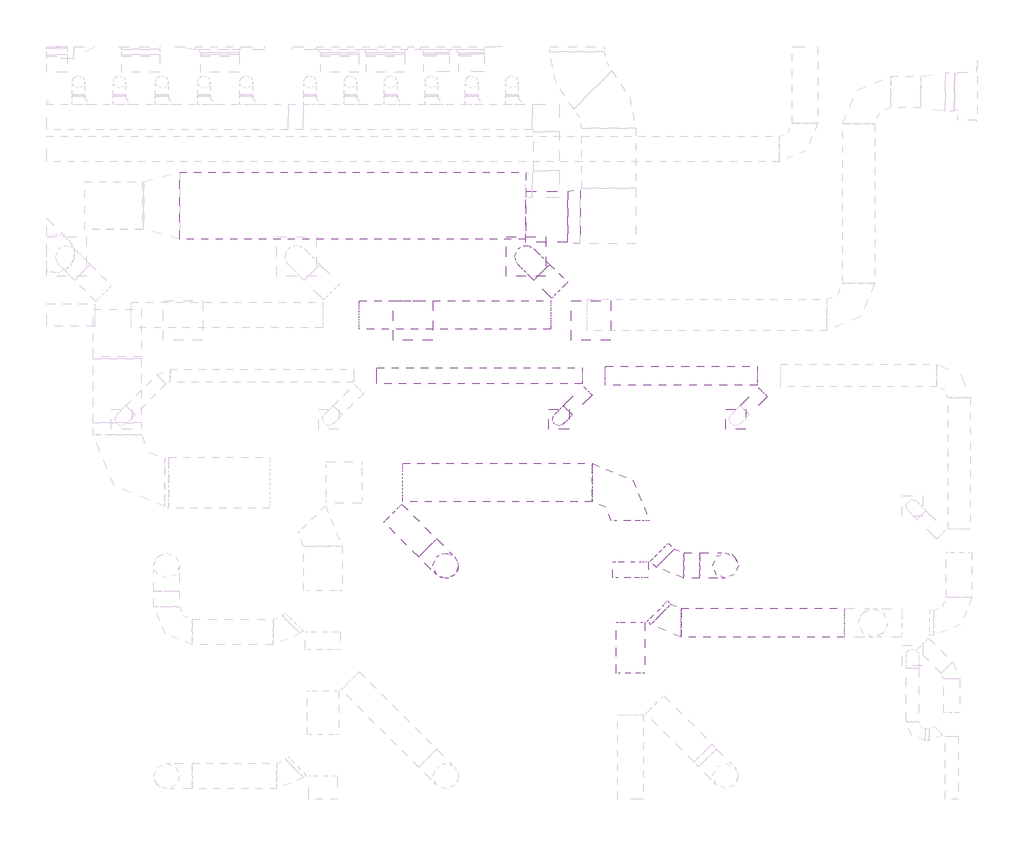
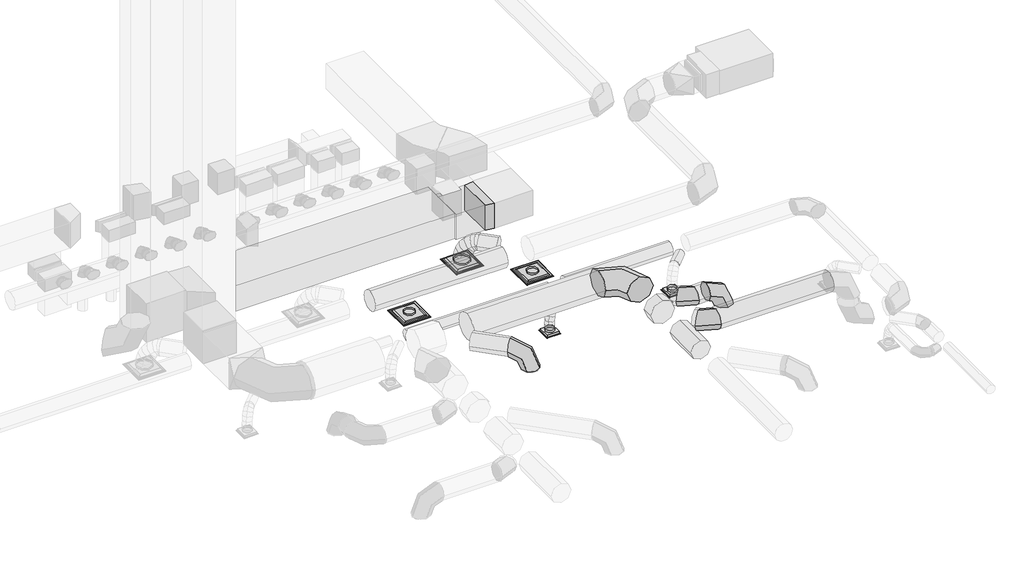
# One storey, part 20 of 33: 20 duct segments, 6 duct fittings, 5 air terminals.
"""IFC4 building model written with IfcOpenShell, lengths in millimetres."""

from ifc_helpers import new_model, si_unit, point, frame, frame_2d, origin, place, context, project, spatial, polyline, circle_curve, ellipse_curve, trimmed, segment, composite_curve, outline, extrude, transform, mapped, element, save
from ifc_brep_helpers import plane_surface, cylinder_surface, advanced_brep
from components import air_terminal_1ddfe03e, air_terminal_0721d01d, par_aa_10_24x24_32668ffe, rectangular_transition_angle_15_degree_857dea24, round_elbow_1_d_30de4f45, round_elbow_1_d_8aca8b6e, round_elbow_1_d_29f30982, round_elbow_1_d_6b09a4cd

model = new_model("IFC4")

# Units and contexts
model_context = context("Model", 3, world=origin())
ifc_project = project(units=[si_unit("LENGTHUNIT", "METRE", prefix="MILLI")], contexts=[model_context])

# Site, building, storey
site = spatial("IfcSite", under=ifc_project)
building = spatial("IfcBuilding", under=site)
storey = spatial("IfcBuildingStorey", under=building, Name="T.O. SLAB - 1ST", Elevation=-25.4)

# Air terminals
placement = place(None, origin())
air_terminal_shape = air_terminal_1ddfe03e(model_context)
element("IfcAirTerminal", 1, ObjectType="Titus-Round_Neck_Supply_Diffuser-PCS_Surface_Mount : PCS AA-14_24x24", at=placement, inside=storey, context=model_context, shape_type="MappedRepresentation", body=[
    mapped(air_terminal_shape, transform((26794.1003593, 22983.6286711, 3327.4), x_axis=(1.0, 0.0, 0.0), y_axis=(0.0, -1.0, 0.0), z_axis=(0.0, 0.0, -1.0))),
])
air_terminal_2_shape = air_terminal_0721d01d(model_context)
element("IfcAirTerminal", 2, ObjectType="Titus-Round_Neck_Supply_Diffuser-PCS_Surface_Mount : PCS AA-08_12x12", at=placement, inside=storey, context=model_context, shape_type="MappedRepresentation", body=[
    mapped(air_terminal_2_shape, transform((27319.5570862, 20392.8311449, 3022.6), x_axis=(1.0, 0.0, 0.0), y_axis=(0.0, -1.0, 0.0), z_axis=(0.0, 0.0, -1.0))),
])
element("IfcAirTerminal", 3, ObjectType="Titus-Round_Neck_Supply_Diffuser-PCS_Surface_Mount : PCS AA-08_12x12", at=placement, inside=storey, context=model_context, shape_type="MappedRepresentation", body=[
    mapped(air_terminal_2_shape, transform((30136.7941605, 20392.8311449, 3022.6), x_axis=(1.0, 0.0, 0.0), y_axis=(0.0, -1.0, 0.0), z_axis=(0.0, 0.0, -1.0))),
])
par_aa_10_24x24_shape = par_aa_10_24x24_32668ffe(model_context)
element("IfcAirTerminal", 4, ObjectType="Titus-Round_Neck_Return_Diffuser-PAR_Surface_Mount : PAR AA-10_24x24", at=placement, inside=storey, context=model_context, shape_type="MappedRepresentation", body=[
    mapped(par_aa_10_24x24_shape, transform((27829.5759689, 21965.7752957, 3327.4), x_axis=(1.0, 0.0, 0.0), y_axis=(0.0, -1.0, 0.0), z_axis=(0.0, 0.0, -1.0))),
])
element("IfcAirTerminal", 5, ObjectType="Titus-Round_Neck_Return_Diffuser-PAR_Surface_Mount : PAR AA-10_24x24", at=placement, inside=storey, context=model_context, shape_type="MappedRepresentation", body=[
    mapped(par_aa_10_24x24_shape, transform((24993.2472379, 21965.7752957, 3327.4), x_axis=(1.0, 0.0, 0.0), y_axis=(0.0, -1.0, 0.0), z_axis=(0.0, 0.0, -1.0))),
])

# Duct fittings
rectangular_transition_angle_15_degree_shape = rectangular_transition_angle_15_degree_857dea24(model_context)
element("IfcDuctFitting", 6, ObjectType="Rectangular Transition - Angle : 15 Degree", at=placement, inside=storey, context=model_context, shape_type="MappedRepresentation", body=[
    mapped(rectangular_transition_angle_15_degree_shape, transform((27655.9876835, 23618.6195003, 4038.6), x_axis=(-1.0, 0.0, 0.0), y_axis=(0.0, -1.0, 0.0), z_axis=(0.0, 0.0, 1.0))),
])
round_elbow_1_d_shape = round_elbow_1_d_30de4f45(model_context)
element("IfcDuctFitting", 7, ObjectType="Round Elbow : 1 D", at=placement, inside=storey, context=model_context, shape_type="MappedRepresentation", body=[
    mapped(round_elbow_1_d_shape, transform((29136.6143445, 18062.7021835, 4635.5), x_axis=(0.7071067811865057, -0.7071067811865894, 0.0), y_axis=(0.7071067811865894, 0.7071067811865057, 0.0), z_axis=(0.0, 0.0, 1.0))),
])
round_elbow_1_d_2_shape = round_elbow_1_d_8aca8b6e(model_context)
element("IfcDuctFitting", 8, ObjectType="Round Elbow : 1 D", at=placement, inside=storey, context=model_context, shape_type="MappedRepresentation", body=[
    mapped(round_elbow_1_d_2_shape, transform((25516.0211962, 18056.8445835, 4635.5), x_axis=(0.0, 0.0, 1.0), y_axis=(-0.7082143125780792, 0.705997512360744, 0.0), z_axis=(-0.705997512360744, -0.7082143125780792, 0.0))),
])
element("IfcDuctFitting", 9, ObjectType="Round Elbow : 1 D", at=placement, inside=storey, context=model_context, shape_type="MappedRepresentation", body=[
    mapped(round_elbow_1_d_2_shape, transform((29971.9404612, 18062.7021835, 4635.5), x_axis=(0.0, 0.0, 1.0), y_axis=(-1.0, 0.0, 0.0), z_axis=(0.0, -1.0, 0.0))),
])
round_elbow_1_d_3_shape = round_elbow_1_d_29f30982(model_context)
element("IfcDuctFitting", 10, ObjectType="Round Elbow : 1 D", at=placement, inside=storey, context=model_context, shape_type="MappedRepresentation", body=[
    mapped(round_elbow_1_d_3_shape, transform((28460.757068, 19383.49798, 4635.5), x_axis=(0.0, 1.0, 0.0), y_axis=(-1.0, 0.0, 0.0), z_axis=(0.0, 0.0, 1.0))),
])
round_elbow_1_d_4_shape = round_elbow_1_d_6b09a4cd(model_context)
element("IfcDuctFitting", 11, ObjectType="Round Elbow : 1 D", at=placement, inside=storey, context=model_context, shape_type="MappedRepresentation", body=[
    mapped(round_elbow_1_d_4_shape, transform((29077.520461, 17149.3079464, 4635.5), x_axis=(0.7071067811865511, -0.707106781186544, 0.0), y_axis=(0.707106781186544, 0.7071067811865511, 0.0), z_axis=(0.0, 0.0, 1.0))),
])

# Duct segments
element("IfcDuctSegment", 12, ObjectType="Flex - Round", at=placement, inside=storey, context=model_context, shape_type="AdvancedBrep", body=[
    advanced_brep(
    [(27535.0830808, 20463.5313832, 3530.6), (27463.2410318, 20535.3734322, 3429.0), (27391.3989828, 20607.2154811, 3530.6), (27463.2410318, 20535.3734322, 3632.2), (27514.8774266, 20443.3257291, 3530.6), (27460.1110625, 20532.2434629, 3429.0), (27371.2954757, 20587.111974, 3530.6), (27426.0618399, 20498.1942402, 3632.2), (27391.2313169, 20320.8216688, 3117.85), (27247.5476101, 20321.1569141, 3117.85), (27247.8828554, 20464.840621, 3117.85), (27391.5665623, 20464.5053756, 3117.85), (27486.6930422, 20415.2261322, 3510.6152663), (27457.8171631, 20529.9564642, 3427.3734621), (27343.2575082, 20559.1583535, 3510.7190863), (27372.1333873, 20444.4280215, 3593.9608904), (27449.5121035, 20378.2568308, 3457.535869), (27437.0341597, 20509.2917596, 3397.7037084), (27306.15357, 20522.2656144, 3457.7496147), (27318.6315138, 20391.2306856, 3517.5817753), (27422.4328543, 20351.452559, 3381.5439205), (27418.1320615, 20490.5816036, 3344.6591332), (27279.1006607, 20495.487415, 3381.8315832), (27283.4014535, 20356.3583704, 3418.7163705), (27404.3969683, 20333.6915046, 3292.8233304), (27403.1999664, 20475.8770443, 3271.2064459), (27261.0631889, 20477.724799, 3293.1031925), (27262.2601909, 20335.5392593, 3314.720077), (27394.3475146, 20323.8533685, 3201.5338504), (27394.3771654, 20467.2397672, 3191.0599091), (27251.0041677, 20467.8772966, 3201.7268012), (27250.9745169, 20324.4908979, 3212.2007425), (27391.2313169, 20320.8216688, 3123.0874764), (27391.5665623, 20464.5053756, 3120.3064953), (27247.8828554, 20464.840621, 3123.1516743), (27247.5476101, 20321.1569141, 3125.9326554)],
    [
        (0, 1, circle_curve(frame((27463.2410318, 20535.3734322, 3530.6), z_axis=(0.7071067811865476, 0.7071067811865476, 0.0), x_axis=(0.7071067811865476, -0.7071067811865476, 0.0)), 101.6)),
        (1, 2, circle_curve(frame((27463.2410318, 20535.3734322, 3530.6), z_axis=(0.7071067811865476, 0.7071067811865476, 0.0), x_axis=(0.7071067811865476, -0.7071067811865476, 0.0)), 101.6)),
        (2, 3, circle_curve(frame((27463.2410318, 20535.3734322, 3530.6), z_axis=(0.7071067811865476, 0.7071067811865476, 0.0), x_axis=(0.7071067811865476, -0.7071067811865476, 0.0)), 101.6)),
        (3, 0, circle_curve(frame((27463.2410318, 20535.3734322, 3530.6), z_axis=(0.7071067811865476, 0.7071067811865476, 0.0), x_axis=(0.7071067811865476, -0.7071067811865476, 0.0)), 101.6)),
        (0, 4),
        (4, 5, ellipse_curve(frame((27443.0864512, 20515.2188515, 3530.6), z_axis=(0.688540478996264, 0.6875621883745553, 0.23058674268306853), x_axis=(0.16098605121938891, 0.16511431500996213, -0.9730471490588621)), 104.4137922, 101.6)),
        (5, 1),
        (5, 6, ellipse_curve(frame((27443.0864512, 20515.2188515, 3530.6), z_axis=(0.688540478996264, 0.6875621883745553, 0.23058674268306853), x_axis=(0.16098605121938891, 0.16511431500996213, -0.9730471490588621)), 104.4137922, 101.6)),
        (6, 2),
        (6, 7, ellipse_curve(frame((27443.0864512, 20515.2188515, 3530.6), z_axis=(0.688540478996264, 0.6875621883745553, 0.23058674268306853), x_axis=(0.16098605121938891, 0.16511431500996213, -0.9730471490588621)), 104.4137922, 101.6)),
        (7, 3),
        (7, 4, ellipse_curve(frame((27443.0864512, 20515.2188515, 3530.6), z_axis=(0.688540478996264, 0.6875621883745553, 0.23058674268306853), x_axis=(0.16098605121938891, 0.16511431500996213, -0.9730471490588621)), 104.4137922, 101.6)),
        (8, 9, circle_curve(frame((27319.5570862, 20392.8311449, 3117.85), z_axis=(0.0, 0.0, -1.0), x_axis=(0.7054550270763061, -0.7087546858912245, 0.0)), 101.6)),
        (9, 10, circle_curve(frame((27319.5570862, 20392.8311449, 3117.85), z_axis=(0.0, 0.0, -1.0), x_axis=(0.7054550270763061, -0.7087546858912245, 0.0)), 101.6)),
        (10, 11, circle_curve(frame((27319.5570862, 20392.8311449, 3117.85), z_axis=(0.0, 0.0, -1.0), x_axis=(0.7054550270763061, -0.7087546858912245, 0.0)), 101.6)),
        (11, 8, circle_curve(frame((27319.5570862, 20392.8311449, 3117.85), z_axis=(0.0, 0.0, -1.0), x_axis=(0.7054550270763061, -0.7087546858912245, 0.0)), 101.6)),
        (4, 12),
        (12, 13, ellipse_curve(frame((27414.9752752, 20487.1922428, 3510.6671763), z_axis=(0.5732082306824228, 0.5708061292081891, 0.5878883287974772), x_axis=(0.414265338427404, 0.41713774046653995, -0.808937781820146)), 102.96626, 101.6)),
        (13, 5),
        (13, 14, ellipse_curve(frame((27414.9752752, 20487.1922428, 3510.6671763), z_axis=(0.5732082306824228, 0.5708061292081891, 0.5878883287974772), x_axis=(0.414265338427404, 0.41713774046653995, -0.808937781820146)), 102.96626, 101.6)),
        (14, 6),
        (14, 15, ellipse_curve(frame((27414.9752752, 20487.1922428, 3510.6671763), z_axis=(0.5732082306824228, 0.5708061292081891, 0.5878883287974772), x_axis=(0.414265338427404, 0.41713774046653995, -0.808937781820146)), 102.96626, 101.6)),
        (15, 7),
        (15, 12, ellipse_curve(frame((27414.9752752, 20487.1922428, 3510.6671763), z_axis=(0.5732082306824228, 0.5708061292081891, 0.5878883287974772), x_axis=(0.414265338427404, 0.41713774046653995, -0.808937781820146)), 102.96626, 101.6)),
        (12, 16),
        (16, 17, ellipse_curve(frame((27377.8328367, 20450.2612226, 3457.6427418), z_axis=(0.4135458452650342, 0.4104722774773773, 0.8127068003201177), x_axis=(0.5740369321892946, 0.5753079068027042, -0.5826683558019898)), 102.8692851, 101.6)),
        (17, 13),
        (17, 18, ellipse_curve(frame((27377.8328367, 20450.2612226, 3457.6427418), z_axis=(0.4135458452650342, 0.4104722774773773, 0.8127068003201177), x_axis=(0.5740369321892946, 0.5753079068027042, -0.5826683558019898)), 102.8692851, 101.6)),
        (18, 14),
        (18, 19, ellipse_curve(frame((27377.8328367, 20450.2612226, 3457.6427418), z_axis=(0.4135458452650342, 0.4104722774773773, 0.8127068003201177), x_axis=(0.5740369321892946, 0.5753079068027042, -0.5826683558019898)), 102.8692851, 101.6)),
        (19, 15),
        (19, 16, ellipse_curve(frame((27377.8328367, 20450.2612226, 3457.6427418), z_axis=(0.4135458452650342, 0.4104722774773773, 0.8127068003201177), x_axis=(0.5740369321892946, 0.5753079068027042, -0.5826683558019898)), 102.8692851, 101.6)),
        (16, 20),
        (20, 21, ellipse_curve(frame((27350.7667575, 20423.469987, 3381.6877518), z_axis=(0.25814224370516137, 0.25502187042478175, 0.931840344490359), x_axis=(0.6595970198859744, 0.6582257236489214, -0.3628645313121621)), 102.0449505, 101.6)),
        (21, 17),
        (21, 22, ellipse_curve(frame((27350.7667575, 20423.469987, 3381.6877518), z_axis=(0.25814224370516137, 0.25502187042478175, 0.931840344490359), x_axis=(0.6595970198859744, 0.6582257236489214, -0.3628645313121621)), 102.0449505, 101.6)),
        (22, 18),
        (22, 23, ellipse_curve(frame((27350.7667575, 20423.469987, 3381.6877518), z_axis=(0.25814224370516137, 0.25502187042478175, 0.931840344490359), x_axis=(0.6595970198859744, 0.6582257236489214, -0.3628645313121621)), 102.0449505, 101.6)),
        (23, 19),
        (23, 20, ellipse_curve(frame((27350.7667575, 20423.469987, 3381.6877518), z_axis=(0.25814224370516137, 0.25502187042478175, 0.931840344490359), x_axis=(0.6595970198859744, 0.6582257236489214, -0.3628645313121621)), 102.0449505, 101.6)),
        (20, 24),
        (24, 25, ellipse_curve(frame((27332.7300786, 20405.7081518, 3292.9632615), z_axis=(0.1524417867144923, 0.14980329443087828, 0.9768932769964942), x_axis=(0.6935269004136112, 0.687998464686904, -0.21372541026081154)), 101.7990065, 101.6)),
        (25, 21),
        (25, 26, ellipse_curve(frame((27332.7300786, 20405.7081518, 3292.9632615), z_axis=(0.1524417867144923, 0.14980329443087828, 0.9768932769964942), x_axis=(0.6935269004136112, 0.687998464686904, -0.21372541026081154)), 101.7990065, 101.6)),
        (26, 22),
        (26, 27, ellipse_curve(frame((27332.7300786, 20405.7081518, 3292.9632615), z_axis=(0.1524417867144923, 0.14980329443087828, 0.9768932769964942), x_axis=(0.6935269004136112, 0.687998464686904, -0.21372541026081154)), 101.7990065, 101.6)),
        (27, 23),
        (27, 24, ellipse_curve(frame((27332.7300786, 20405.7081518, 3292.9632615), z_axis=(0.1524417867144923, 0.14980329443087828, 0.9768932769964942), x_axis=(0.6935269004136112, 0.687998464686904, -0.21372541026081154)), 101.7990065, 101.6)),
        (24, 28),
        (28, 29, ellipse_curve(frame((27322.6758411, 20395.8653325, 3201.6303258), z_axis=(0.07431974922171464, 0.07263609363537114, 0.9945856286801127), x_axis=(0.7094711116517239, 0.6970304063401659, -0.10391994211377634)), 101.7208169, 101.6)),
        (29, 25),
        (29, 30, ellipse_curve(frame((27322.6758411, 20395.8653325, 3201.6303258), z_axis=(0.07431974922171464, 0.07263609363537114, 0.9945856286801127), x_axis=(0.7094711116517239, 0.6970304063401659, -0.10391994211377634)), 101.7208169, 101.6)),
        (30, 26),
        (30, 31, ellipse_curve(frame((27322.6758411, 20395.8653325, 3201.6303258), z_axis=(0.07431974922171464, 0.07263609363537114, 0.9945856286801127), x_axis=(0.7094711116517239, 0.6970304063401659, -0.10391994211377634)), 101.7208169, 101.6)),
        (31, 27),
        (31, 28, ellipse_curve(frame((27322.6758411, 20395.8653325, 3201.6303258), z_axis=(0.07431974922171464, 0.07263609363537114, 0.9945856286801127), x_axis=(0.7094711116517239, 0.6970304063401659, -0.10391994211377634)), 101.7208169, 101.6)),
        (28, 32),
        (32, 33, ellipse_curve(frame((27319.5570862, 20392.8311449, 3123.1195753), z_axis=(0.01983912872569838, 0.019301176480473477, 0.9996168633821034), x_axis=(0.7164830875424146, 0.6970551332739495, -0.027678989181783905)), 101.6389416, 101.6)),
        (33, 29),
        (33, 34, ellipse_curve(frame((27319.5570862, 20392.8311449, 3123.1195753), z_axis=(0.01983912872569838, 0.019301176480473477, 0.9996168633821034), x_axis=(0.7164830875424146, 0.6970551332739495, -0.027678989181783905)), 101.6389416, 101.6)),
        (34, 30),
        (34, 35, ellipse_curve(frame((27319.5570862, 20392.8311449, 3123.1195753), z_axis=(0.01983912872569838, 0.019301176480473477, 0.9996168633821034), x_axis=(0.7164830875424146, 0.6970551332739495, -0.027678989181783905)), 101.6389416, 101.6)),
        (35, 31),
        (35, 32, ellipse_curve(frame((27319.5570862, 20392.8311449, 3123.1195753), z_axis=(0.01983912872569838, 0.019301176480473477, 0.9996168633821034), x_axis=(0.7164830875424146, 0.6970551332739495, -0.027678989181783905)), 101.6389416, 101.6)),
        (32, 8),
        (11, 33),
        (10, 34),
        (9, 35),
    ],
    [
        plane_surface(frame((27463.2410318, 20535.3734322, 3429.0), z_axis=(0.7071067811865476, 0.7071067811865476, 0.0), x_axis=(0.7071067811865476, -0.7071067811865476, 0.0))),
        cylinder_surface(frame((27463.2410318, 20535.3734322, 3530.6), z_axis=(0.7071067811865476, 0.7071067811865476, 0.0), x_axis=(0.7071067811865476, -0.7071067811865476, 0.0)), 101.6),
        plane_surface(frame((27319.5570862, 20291.2311449, 3117.85), z_axis=(0.0, 0.0, -1.0), x_axis=(-1.0, 0.0, 0.0))),
        cylinder_surface(frame((27443.0864512, 20515.2188515, 3530.6), z_axis=(0.632863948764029, 0.6309600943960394, 0.4487455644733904), x_axis=(0.7061541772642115, -0.708058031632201, -0.0003190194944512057)), 101.6),
        cylinder_surface(frame((27414.9752752, 20487.1922428, 3510.6671763), z_axis=(0.4983407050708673, 0.49550410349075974, 0.7114297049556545), x_axis=(0.7056704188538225, -0.7085397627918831, -0.0008151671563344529)), 101.6),
        cylinder_surface(frame((27377.8328367, 20450.2612226, 3457.6427418), z_axis=(0.31854565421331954, 0.31531096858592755, 0.8939282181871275), x_axis=(0.7053985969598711, -0.7088095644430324, -0.0013493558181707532)), 101.6),
        cylinder_surface(frame((27350.7667575, 20423.469987, 3381.6877518), z_axis=(0.19548765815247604, 0.19250880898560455, 0.9616261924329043), x_axis=(0.705360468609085, -0.7088472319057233, -0.0014869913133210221)), 101.6),
        cylinder_surface(frame((27332.7300786, 20405.7081518, 3292.9632615), z_axis=(0.10879989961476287, 0.10651208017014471, 0.98834091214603), x_axis=(0.7053951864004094, -0.7088131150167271, -0.0012645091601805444)), 101.6),
        cylinder_surface(frame((27322.6758411, 20395.8653325, 3201.6303258), z_axis=(0.0396630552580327, 0.03858756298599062, 0.9984677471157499), x_axis=(0.7054424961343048, -0.7087668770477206, -0.0006313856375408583)), 101.6),
        cylinder_surface(frame((27319.5570862, 20392.8311449, 3123.1195753), z_axis=(0.0, 0.0, 1.0), x_axis=(0.7054550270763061, -0.7087546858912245, 0.0)), 101.6),
    ],
    [
        (0, [[1, 2, 3, 4]]),
        (1, [[-1, 5, 6, 7]]),
        (1, [[-2, -7, 8, 9]]),
        (1, [[-3, -9, 10, 11]]),
        (1, [[-4, -11, 12, -5]]),
        (2, [[13, 14, 15, 16]]),
        (3, [[-6, 17, 18, 19]]),
        (3, [[-8, -19, 20, 21]]),
        (3, [[-10, -21, 22, 23]]),
        (3, [[-12, -23, 24, -17]]),
        (4, [[-18, 25, 26, 27]]),
        (4, [[-20, -27, 28, 29]]),
        (4, [[-22, -29, 30, 31]]),
        (4, [[-24, -31, 32, -25]]),
        (5, [[-26, 33, 34, 35]]),
        (5, [[-28, -35, 36, 37]]),
        (5, [[-30, -37, 38, 39]]),
        (5, [[-32, -39, 40, -33]]),
        (6, [[-34, 41, 42, 43]]),
        (6, [[-36, -43, 44, 45]]),
        (6, [[-38, -45, 46, 47]]),
        (6, [[-40, -47, 48, -41]]),
        (7, [[-42, 49, 50, 51]]),
        (7, [[-44, -51, 52, 53]]),
        (7, [[-46, -53, 54, 55]]),
        (7, [[-48, -55, 56, -49]]),
        (8, [[-50, 57, 58, 59]]),
        (8, [[-52, -59, 60, 61]]),
        (8, [[-54, -61, 62, 63]]),
        (8, [[-56, -63, 64, -57]]),
        (9, [[-58, 65, -16, 66]]),
        (9, [[-60, -66, -15, 67]]),
        (9, [[-62, -67, -14, 68]]),
        (9, [[-64, -68, -13, -65]]),
    ],
),
])
element("IfcDuctSegment", 13, ObjectType="Flex - Round", at=placement, inside=storey, context=model_context, shape_type="AdvancedBrep", body=[
    advanced_brep(
    [(26919.8239424, 22606.4579215, 3886.2), (27045.5520106, 22732.1770245, 3708.4), (27171.2800788, 22857.8961276, 3886.2), (27045.5520106, 22732.1770245, 4064.0), (26892.3595128, 22633.9243096, 3886.2), (27041.1674895, 22736.5618583, 3708.4), (27143.8136004, 22885.3645646, 3886.2), (26995.0056237, 22782.7270159, 4064.0), (26668.3757814, 22857.9060777, 3416.3), (26668.3777658, 23109.353249, 3416.3), (26919.8249372, 23109.3512646, 3416.3), (26919.8229528, 22857.9040932, 3416.3), (26852.9740249, 22673.3112776, 3865.0343271), (27036.8073603, 22740.9221514, 3706.0568763), (27104.4252147, 22924.7544305, 3865.0327699), (26920.5918793, 22857.1435568, 4024.0102207), (26792.9063658, 22733.3798987, 3808.0267064), (27002.6589958, 22775.0710628, 3673.6481385), (27044.3558807, 22984.8247266, 3808.0235595), (26834.6032507, 22943.1335625, 3942.4021274), (26742.0173958, 22784.2681798, 3724.9134185), (26971.2087703, 22806.5208625, 3622.2827515), (26993.4660741, 23035.7138442, 3724.9089053), (26764.2746996, 23013.4611616, 3827.5395723), (26702.7023512, 22823.5817101, 3625.4303545), (26943.8279343, 22833.9006438, 3552.9980925), (26954.1509866, 23075.0274174, 3625.4257329), (26713.0254035, 23064.7084837, 3697.857995), (26677.3566811, 22848.9258661, 3519.313911), (26925.6344761, 22852.0930152, 3476.8263015), (26928.8055969, 23100.3712931, 3519.3104629), (26680.5278019, 23097.2041439, 3561.7980724), (26668.3757814, 22857.9060777, 3438.0566716), (26919.8229528, 22857.9040932, 3424.2448946), (26919.8249372, 23109.3512646, 3438.0553953), (26668.3777658, 23109.353249, 3451.8671724)],
    [
        (0, 1, circle_curve(frame((27045.5520106, 22732.1770245, 3886.2), z_axis=(0.7070815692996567, -0.7071319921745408, 0.0), x_axis=(-0.7071319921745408, -0.7070815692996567, 0.0)), 177.8)),
        (1, 2, circle_curve(frame((27045.5520106, 22732.1770245, 3886.2), z_axis=(0.7070815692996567, -0.7071319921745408, 0.0), x_axis=(-0.7071319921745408, -0.7070815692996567, 0.0)), 177.8)),
        (2, 3, circle_curve(frame((27045.5520106, 22732.1770245, 3886.2), z_axis=(0.7070815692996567, -0.7071319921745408, 0.0), x_axis=(-0.7071319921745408, -0.7070815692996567, 0.0)), 177.8)),
        (3, 0, circle_curve(frame((27045.5520106, 22732.1770245, 3886.2), z_axis=(0.7070815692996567, -0.7071319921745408, 0.0), x_axis=(-0.7071319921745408, -0.7070815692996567, 0.0)), 177.8)),
        (0, 4),
        (4, 5, ellipse_curve(frame((27018.0865566, 22759.6444371, 3886.2), z_axis=(0.6954638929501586, -0.6955021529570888, 0.1805733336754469), x_axis=(0.12764920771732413, -0.12772004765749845, -0.9835615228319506)), 180.7716098, 177.8)),
        (5, 1),
        (5, 6, ellipse_curve(frame((27018.0865566, 22759.6444371, 3886.2), z_axis=(0.6954638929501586, -0.6955021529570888, 0.1805733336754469), x_axis=(0.12764920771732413, -0.12772004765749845, -0.9835615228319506)), 180.7716098, 177.8)),
        (6, 2),
        (6, 7, ellipse_curve(frame((27018.0865566, 22759.6444371, 3886.2), z_axis=(0.6954638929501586, -0.6955021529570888, 0.1805733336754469), x_axis=(0.12764920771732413, -0.12772004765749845, -0.9835615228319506)), 180.7716098, 177.8)),
        (7, 3),
        (7, 4, ellipse_curve(frame((27018.0865566, 22759.6444371, 3886.2), z_axis=(0.6954638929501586, -0.6955021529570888, 0.1805733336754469), x_axis=(0.12764920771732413, -0.12772004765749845, -0.9835615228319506)), 180.7716098, 177.8)),
        (8, 9, circle_curve(frame((26794.1003593, 22983.6286711, 3416.3), z_axis=(0.0, 0.0, -1.0), x_axis=(-0.7071123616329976, -0.7071012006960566, 0.0)), 177.8)),
        (9, 10, circle_curve(frame((26794.1003593, 22983.6286711, 3416.3), z_axis=(0.0, 0.0, -1.0), x_axis=(-0.7071123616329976, -0.7071012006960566, 0.0)), 177.8)),
        (10, 11, circle_curve(frame((26794.1003593, 22983.6286711, 3416.3), z_axis=(0.0, 0.0, -1.0), x_axis=(-0.7071123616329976, -0.7071012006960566, 0.0)), 177.8)),
        (11, 8, circle_curve(frame((26794.1003593, 22983.6286711, 3416.3), z_axis=(0.0, 0.0, -1.0), x_axis=(-0.7071123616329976, -0.7071012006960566, 0.0)), 177.8)),
        (4, 12),
        (12, 13, ellipse_curve(frame((26978.6996198, 22799.0328541, 3865.0335485), z_axis=(0.6281374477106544, -0.6281546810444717, 0.4592004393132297), x_axis=(0.3246698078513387, -0.3247376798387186, -0.8883326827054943)), 178.9607375, 177.8)),
        (13, 5),
        (13, 14, ellipse_curve(frame((26978.6996198, 22799.0328541, 3865.0335485), z_axis=(0.6281374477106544, -0.6281546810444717, 0.4592004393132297), x_axis=(0.3246698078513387, -0.3247376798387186, -0.8883326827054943)), 178.9607375, 177.8)),
        (14, 6),
        (14, 15, ellipse_curve(frame((26978.6996198, 22799.0328541, 3865.0335485), z_axis=(0.6281374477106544, -0.6281546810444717, 0.4592004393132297), x_axis=(0.3246698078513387, -0.3247376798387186, -0.8883326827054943)), 178.9607375, 177.8)),
        (15, 7),
        (15, 12, ellipse_curve(frame((26978.6996198, 22799.0328541, 3865.0335485), z_axis=(0.6281374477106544, -0.6281546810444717, 0.4592004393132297), x_axis=(0.3246698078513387, -0.3247376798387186, -0.8883326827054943)), 178.9607375, 177.8)),
        (12, 16),
        (16, 17, ellipse_curve(frame((26918.6311232, 22859.1023127, 3808.025133), z_axis=(0.5296905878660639, -0.5296921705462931, 0.6624606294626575), x_axis=(0.4684008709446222, -0.46845993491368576, -0.7490967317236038)), 179.3853699, 177.8)),
        (17, 13),
        (17, 18, ellipse_curve(frame((26918.6311232, 22859.1023127, 3808.025133), z_axis=(0.5296905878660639, -0.5296921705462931, 0.6624606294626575), x_axis=(0.4684008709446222, -0.46845993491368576, -0.7490967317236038)), 179.3853699, 177.8)),
        (18, 14),
        (18, 19, ellipse_curve(frame((26918.6311232, 22859.1023127, 3808.025133), z_axis=(0.5296905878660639, -0.5296921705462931, 0.6624606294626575), x_axis=(0.4684008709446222, -0.46845993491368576, -0.7490967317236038)), 179.3853699, 177.8)),
        (19, 15),
        (19, 16, ellipse_curve(frame((26918.6311232, 22859.1023127, 3808.025133), z_axis=(0.5296905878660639, -0.5296921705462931, 0.6624606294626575), x_axis=(0.4684008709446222, -0.46845993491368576, -0.7490967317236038)), 179.3853699, 177.8)),
        (16, 20),
        (20, 21, ellipse_curve(frame((26867.741735, 22909.991012, 3724.9111619), z_axis=(0.4060341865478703, -0.40602435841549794, 0.8187065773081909), x_axis=(0.5788957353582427, -0.5789302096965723, -0.5742121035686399)), 178.7290963, 177.8)),
        (21, 17),
        (21, 22, ellipse_curve(frame((26867.741735, 22909.991012, 3724.9111619), z_axis=(0.4060341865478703, -0.40602435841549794, 0.8187065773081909), x_axis=(0.5788957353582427, -0.5789302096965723, -0.5742121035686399)), 178.7290963, 177.8)),
        (22, 18),
        (22, 23, ellipse_curve(frame((26867.741735, 22909.991012, 3724.9111619), z_axis=(0.4060341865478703, -0.40602435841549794, 0.8187065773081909), x_axis=(0.5788957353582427, -0.5789302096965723, -0.5742121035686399)), 178.7290963, 177.8)),
        (23, 19),
        (23, 20, ellipse_curve(frame((26867.741735, 22909.991012, 3724.9111619), z_axis=(0.4060341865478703, -0.40602435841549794, 0.8187065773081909), x_axis=(0.5788957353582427, -0.5789302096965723, -0.5742121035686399)), 178.7290963, 177.8)),
        (20, 24),
        (24, 25, ellipse_curve(frame((26828.4266689, 22949.3045637, 3625.4280437), z_axis=(0.2868423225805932, -0.2868288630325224, 0.9140299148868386), x_axis=(0.6463161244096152, -0.6463173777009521, -0.40564678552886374)), 178.5542344, 177.8)),
        (25, 21),
        (25, 26, ellipse_curve(frame((26828.4266689, 22949.3045637, 3625.4280437), z_axis=(0.2868423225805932, -0.2868288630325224, 0.9140299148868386), x_axis=(0.6463161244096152, -0.6463173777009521, -0.40564678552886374)), 178.5542344, 177.8)),
        (26, 22),
        (26, 27, ellipse_curve(frame((26828.4266689, 22949.3045637, 3625.4280437), z_axis=(0.2868423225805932, -0.2868288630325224, 0.9140299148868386), x_axis=(0.6463161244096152, -0.6463173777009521, -0.40564678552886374)), 178.5542344, 177.8)),
        (27, 23),
        (27, 24, ellipse_curve(frame((26828.4266689, 22949.3045637, 3625.4280437), z_axis=(0.2868423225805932, -0.2868288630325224, 0.9140299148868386), x_axis=(0.6463161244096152, -0.6463173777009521, -0.40564678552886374)), 178.5542344, 177.8)),
        (24, 28),
        (28, 29, ellipse_curve(frame((26803.081139, 22974.6485796, 3519.312187), z_axis=(0.16835592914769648, -0.16834494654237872, 0.9712446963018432), x_axis=(0.6867888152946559, -0.6867586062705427, -0.23808347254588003)), 178.449537, 177.8)),
        (29, 25),
        (29, 30, ellipse_curve(frame((26803.081139, 22974.6485796, 3519.312187), z_axis=(0.16835592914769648, -0.16834494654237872, 0.9712446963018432), x_axis=(0.6867888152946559, -0.6867586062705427, -0.23808347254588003)), 178.449537, 177.8)),
        (30, 26),
        (30, 31, ellipse_curve(frame((26803.081139, 22974.6485796, 3519.312187), z_axis=(0.16835592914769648, -0.16834494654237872, 0.9712446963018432), x_axis=(0.6867888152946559, -0.6867586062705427, -0.23808347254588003)), 178.449537, 177.8)),
        (31, 27),
        (31, 28, ellipse_curve(frame((26803.081139, 22974.6485796, 3519.312187), z_axis=(0.16835592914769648, -0.16834494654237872, 0.9712446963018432), x_axis=(0.6867888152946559, -0.6867586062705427, -0.23808347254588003)), 178.449537, 177.8)),
        (28, 32),
        (32, 33, ellipse_curve(frame((26794.1003593, 22983.6286711, 3438.0560335), z_axis=(0.054763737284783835, -0.0547595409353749, 0.9969966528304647), x_axis=(0.7050101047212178, -0.7049560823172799, -0.07744465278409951)), 178.3356037, 177.8)),
        (33, 29),
        (33, 34, ellipse_curve(frame((26794.1003593, 22983.6286711, 3438.0560335), z_axis=(0.054763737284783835, -0.0547595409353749, 0.9969966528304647), x_axis=(0.7050101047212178, -0.7049560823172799, -0.07744465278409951)), 178.3356037, 177.8)),
        (34, 30),
        (34, 35, ellipse_curve(frame((26794.1003593, 22983.6286711, 3438.0560335), z_axis=(0.054763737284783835, -0.0547595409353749, 0.9969966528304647), x_axis=(0.7050101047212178, -0.7049560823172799, -0.07744465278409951)), 178.3356037, 177.8)),
        (35, 31),
        (35, 32, ellipse_curve(frame((26794.1003593, 22983.6286711, 3438.0560335), z_axis=(0.054763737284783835, -0.0547595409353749, 0.9969966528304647), x_axis=(0.7050101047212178, -0.7049560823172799, -0.07744465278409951)), 178.3356037, 177.8)),
        (32, 8),
        (11, 33),
        (10, 34),
        (9, 35),
    ],
    [
        plane_surface(frame((27045.5520106, 22732.1770245, 4064.0), z_axis=(0.7070815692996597, -0.7071319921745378, 0.0), x_axis=(0.7071319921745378, 0.7070815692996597, 0.0))),
        cylinder_surface(frame((27045.5520106, 22732.1770245, 3886.2), z_axis=(0.7070815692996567, -0.7071319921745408, 0.0), x_axis=(-0.7071319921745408, -0.7070815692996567, 0.0)), 177.8),
        plane_surface(frame((26794.1003593, 22805.8286711, 3416.3), z_axis=(0.0, 0.0, -1.0), x_axis=(-1.0, 0.0, 0.0))),
        cylinder_surface(frame((27018.0865566, 22759.6444371, 3886.2), z_axis=(0.6609814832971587, -0.6610063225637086, 0.35520996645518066), x_axis=(-0.707120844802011, -0.7070927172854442, 2.894353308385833e-06)), 177.8),
        cylinder_surface(frame((26978.6996198, 22799.0328541, 3865.0335485), z_axis=(0.5871452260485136, -0.5871546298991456, 0.557234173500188), x_axis=(-0.7071156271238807, -0.7070979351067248, 6.708741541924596e-06)), 177.8),
        cylinder_surface(frame((26918.6311232, 22859.1023127, 3808.025133), z_axis=(0.46287336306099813, -0.4628670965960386, 0.7559777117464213), x_axis=(-0.7071115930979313, -0.7071019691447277, 1.1753919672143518e-05)), 177.8),
        cylinder_surface(frame((26867.741735, 22909.991012, 3724.9111619), z_axis=(0.3449735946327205, -0.3449603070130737, 0.8729235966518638), x_axis=(-0.7071105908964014, -0.7071029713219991, 1.3774707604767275e-05)), 177.8),
        cylinder_surface(frame((26828.4266689, 22949.3045637, 3625.4280437), z_axis=(0.22628773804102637, -0.2262742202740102, 0.9474142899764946), x_axis=(-0.7071111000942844, -0.7071024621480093, 1.215213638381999e-05)), 177.8),
        cylinder_surface(frame((26803.081139, 22974.6485796, 3519.312187), z_axis=(0.10919852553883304, -0.10919015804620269, 0.9880046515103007), x_axis=(-0.7071119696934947, -0.7071015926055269, 7.135421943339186e-06)), 177.8),
        cylinder_surface(frame((26794.1003593, 22983.6286711, 3438.0560335), z_axis=(0.0, 0.0, 1.0), x_axis=(-0.7071123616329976, -0.7071012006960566, 0.0)), 177.8),
    ],
    [
        (0, [[1, 2, 3, 4]]),
        (1, [[-1, 5, 6, 7]]),
        (1, [[-2, -7, 8, 9]]),
        (1, [[-3, -9, 10, 11]]),
        (1, [[-4, -11, 12, -5]]),
        (2, [[13, 14, 15, 16]]),
        (3, [[-6, 17, 18, 19]]),
        (3, [[-8, -19, 20, 21]]),
        (3, [[-10, -21, 22, 23]]),
        (3, [[-12, -23, 24, -17]]),
        (4, [[-18, 25, 26, 27]]),
        (4, [[-20, -27, 28, 29]]),
        (4, [[-22, -29, 30, 31]]),
        (4, [[-24, -31, 32, -25]]),
        (5, [[-26, 33, 34, 35]]),
        (5, [[-28, -35, 36, 37]]),
        (5, [[-30, -37, 38, 39]]),
        (5, [[-32, -39, 40, -33]]),
        (6, [[-34, 41, 42, 43]]),
        (6, [[-36, -43, 44, 45]]),
        (6, [[-38, -45, 46, 47]]),
        (6, [[-40, -47, 48, -41]]),
        (7, [[-42, 49, 50, 51]]),
        (7, [[-44, -51, 52, 53]]),
        (7, [[-46, -53, 54, 55]]),
        (7, [[-48, -55, 56, -49]]),
        (8, [[-50, 57, 58, 59]]),
        (8, [[-52, -59, 60, 61]]),
        (8, [[-54, -61, 62, 63]]),
        (8, [[-56, -63, 64, -57]]),
        (9, [[-58, 65, -16, 66]]),
        (9, [[-60, -66, -15, 67]]),
        (9, [[-62, -67, -14, 68]]),
        (9, [[-64, -68, -13, -65]]),
    ],
),
])
element("IfcDuctSegment", 14, ObjectType="Radius Elbows / Tees", at=placement, inside=storey, context=model_context, shape_type="SweptSolid", body=[
    extrude(outline(polyline([(21276.3117862, 23263.0195003), (21276.3117862, 24329.8195003), (26794.2537592, 24329.8195003), (26794.2537592, 23263.0195003), (21276.3117862, 23263.0195003)])), frame((0.0, 0.0, 3733.8), z_axis=(0.0, 0.0, 1.0), x_axis=(1.0, 0.0, 0.0)), (0.0, 0.0, 1.0), 609.6),
])
element("IfcDuctSegment", 15, ObjectType="Radius Elbows / Tees", at=placement, inside=storey, context=model_context, shape_type="SweptSolid", body=[
    extrude(outline(polyline([(26794.2537592, 23212.2195003), (26794.2537592, 24025.0195003), (27463.0555291, 24025.0195003), (27463.0555291, 23212.2195003), (26794.2537592, 23212.2195003)])), frame((0.0, 0.0, 3733.8), z_axis=(0.0, 0.0, 1.0), x_axis=(1.0, 0.0, 0.0)), (0.0, 0.0, 1.0), 609.6),
])
element("IfcDuctSegment", 16, ObjectType="Taps", at=placement, inside=storey, context=model_context, shape_type="SweptSolid", body=[
    extrude(outline(composite_curve([segment(trimmed(circle_curve(frame_2d((19383.49798, 4635.5)), 304.8), [point((19688.29798, 4635.5))], [point((19383.49798, 4330.7))], False, "CARTESIAN"), True, "CONTINUOUS"), segment(trimmed(circle_curve(frame_2d((19383.49798, 4635.5)), 304.8), [point((19383.49798, 4330.7))], [point((19078.69798, 4635.5))], False, "CARTESIAN"), True, "CONTINUOUS"), segment(trimmed(circle_curve(frame_2d((19383.49798, 4635.5)), 304.8), [point((19078.69798, 4635.5))], [point((19383.49798, 4940.3))], False, "CARTESIAN"), True, "CONTINUOUS"), segment(trimmed(circle_curve(frame_2d((19383.49798, 4635.5)), 304.8), [point((19383.49798, 4940.3))], [point((19688.29798, 4635.5))], False, "CARTESIAN"), True, "CONTINUOUS")], self_intersect=False)), frame((24831.667885, 0.0, 0.0), z_axis=(1.0, 0.0, 0.0), x_axis=(0.0, 1.0, 0.0)), (0.0, 0.0, 1.0), 3019.489183),
])
element("IfcDuctSegment", 17, ObjectType="Taps", at=placement, inside=storey, context=model_context, shape_type="SweptSolid", body=[
    extrude(outline(composite_curve([segment(trimmed(circle_curve(frame_2d((0.0, -203.2)), 203.2), [point((-203.2, -203.2))], [point((0.0, 0.0))], False, "CARTESIAN"), True, "CONTINUOUS"), segment(trimmed(circle_curve(frame_2d((0.0, -203.2)), 203.2), [point((0.0, 0.0))], [point((203.2000001, -203.2))], False, "CARTESIAN"), True, "CONTINUOUS"), segment(trimmed(circle_curve(frame_2d((0.0, -203.2)), 203.2), [point((203.2000001, -203.2))], [point((0.0, -406.4))], False, "CARTESIAN"), True, "CONTINUOUS"), segment(trimmed(circle_curve(frame_2d((0.0, -203.2)), 203.2), [point((0.0, -406.4))], [point((-203.2, -203.2))], False, "CARTESIAN"), True, "CONTINUOUS")], self_intersect=False)), frame((25228.2028996, 18343.7619725, 4432.3), z_axis=(-0.7082143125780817, 0.7059975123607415, 0.0), x_axis=(0.7059975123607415, 0.7082143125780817, 0.0)), (0.0, 0.0, 1.0), 783.7995903),
])
element("IfcDuctSegment", 18, ObjectType="Taps", at=placement, inside=storey, context=model_context, shape_type="SweptSolid", body=[
    extrude(outline(composite_curve([segment(trimmed(circle_curve(frame_2d((25516.0211962, 18056.8445835)), 203.2), [point((25659.4798907, 18200.7537318))], [point((25659.9303446, 17913.385889))], False, "CARTESIAN"), True, "CONTINUOUS"), segment(trimmed(circle_curve(frame_2d((25516.0211962, 18056.8445835)), 203.2), [point((25659.9303446, 17913.385889))], [point((25372.5625017, 17912.9354352))], False, "CARTESIAN"), True, "CONTINUOUS"), segment(trimmed(circle_curve(frame_2d((25516.0211962, 18056.8445835)), 203.2), [point((25372.5625017, 17912.9354352))], [point((25372.1120479, 18200.303278))], False, "CARTESIAN"), True, "CONTINUOUS"), segment(trimmed(circle_curve(frame_2d((25516.0211962, 18056.8445835)), 203.2), [point((25372.1120479, 18200.303278))], [point((25659.4798907, 18200.7537318))], False, "CARTESIAN"), True, "CONTINUOUS")], self_intersect=False)), frame((0.0, 0.0, 4216.4), z_axis=(0.0, 0.0, 1.0), x_axis=(1.0, 0.0, 0.0)), (0.0, 0.0, 1.0), 12.7),
])
element("IfcDuctSegment", 19, ObjectType="Taps", at=placement, inside=storey, context=model_context, shape_type="SweptSolid", body=[
    extrude(outline(composite_curve([segment(trimmed(circle_curve(frame_2d((4635.5, 28460.757068)), 228.6), [point((4635.5, 28232.157068))], [point((4406.9, 28460.757068))], False, "CARTESIAN"), True, "CONTINUOUS"), segment(trimmed(circle_curve(frame_2d((4635.5, 28460.757068)), 228.6), [point((4406.9, 28460.757068))], [point((4635.5, 28689.357068))], False, "CARTESIAN"), True, "CONTINUOUS"), segment(trimmed(circle_curve(frame_2d((4635.5, 28460.757068)), 228.6), [point((4635.5, 28689.357068))], [point((4864.1, 28460.757068))], False, "CARTESIAN"), True, "CONTINUOUS"), segment(trimmed(circle_curve(frame_2d((4635.5, 28460.757068)), 228.6), [point((4864.1, 28460.757068))], [point((4635.5, 28232.157068))], False, "CARTESIAN"), True, "CONTINUOUS")], self_intersect=False)), frame((0.0, 16342.8640792, 0.0), z_axis=(0.0, 1.0, 0.0), x_axis=(0.0, 0.0, 1.0)), (0.0, 0.0, 1.0), 816.8560123),
])
element("IfcDuctSegment", 20, ObjectType="Taps", at=placement, inside=storey, context=model_context, shape_type="SweptSolid", body=[
    extrude(outline(composite_curve([segment(trimmed(circle_curve(frame_2d((0.0, -203.2)), 203.2), [point((-203.2000001, -203.2))], [point((0.0, 0.0))], False, "CARTESIAN"), True, "CONTINUOUS"), segment(trimmed(circle_curve(frame_2d((0.0, -203.2)), 203.2), [point((0.0, 0.0))], [point((203.1999999, -203.2))], False, "CARTESIAN"), True, "CONTINUOUS"), segment(trimmed(circle_curve(frame_2d((0.0, -203.2)), 203.2), [point((203.1999999, -203.2))], [point((0.0, -406.4))], False, "CARTESIAN"), True, "CONTINUOUS"), segment(trimmed(circle_curve(frame_2d((0.0, -203.2)), 203.2), [point((0.0, -406.4))], [point((-203.2000001, -203.2))], False, "CARTESIAN"), True, "CONTINUOUS")], self_intersect=False)), frame((29017.5825404, 18181.7339877, 4432.3), z_axis=(-0.707106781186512, 0.7071067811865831, 0.0), x_axis=(0.7071067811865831, 0.707106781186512, 0.0)), (0.0, 0.0, 1.0), 135.5524066),
])
element("IfcDuctSegment", 21, ObjectType="Taps", at=placement, inside=storey, context=model_context, shape_type="SweptSolid", body=[
    extrude(outline(composite_curve([segment(trimmed(circle_curve(frame_2d((18062.7021835, 4635.5)), 203.2), [point((17859.5021835, 4635.5))], [point((18062.7021835, 4838.7))], False, "CARTESIAN"), True, "CONTINUOUS"), segment(trimmed(circle_curve(frame_2d((18062.7021835, 4635.5)), 203.2), [point((18062.7021835, 4838.7))], [point((18265.9021835, 4635.5))], False, "CARTESIAN"), True, "CONTINUOUS"), segment(trimmed(circle_curve(frame_2d((18062.7021835, 4635.5)), 203.2), [point((18265.9021835, 4635.5))], [point((18062.7021835, 4432.3))], False, "CARTESIAN"), True, "CONTINUOUS"), segment(trimmed(circle_curve(frame_2d((18062.7021835, 4635.5)), 203.2), [point((18062.7021835, 4432.3))], [point((17859.5021835, 4635.5))], False, "CARTESIAN"), True, "CONTINUOUS")], self_intersect=False)), frame((29304.9507363, 0.0, 0.0), z_axis=(1.0, 0.0, 0.0), x_axis=(0.0, 1.0, 0.0)), (0.0, 0.0, 1.0), 260.589725),
])
element("IfcDuctSegment", 22, ObjectType="Taps", at=placement, inside=storey, context=model_context, shape_type="SweptSolid", body=[
    extrude(outline(composite_curve([segment(trimmed(circle_curve(frame_2d((0.0, 203.2)), 203.2), [point((0.0, 406.4))], [point((203.2, 203.2))], False, "CARTESIAN"), True, "CONTINUOUS"), segment(trimmed(circle_curve(frame_2d((0.0, 203.2)), 203.2), [point((203.2, 203.2))], [point((0.0, 0.0))], False, "CARTESIAN"), True, "CONTINUOUS"), segment(trimmed(circle_curve(frame_2d((0.0, 203.2)), 203.2), [point((0.0, 0.0))], [point((-203.2, 203.2))], False, "CARTESIAN"), True, "CONTINUOUS"), segment(trimmed(circle_curve(frame_2d((0.0, 203.2)), 203.2), [point((-203.2, 203.2))], [point((0.0, 406.4))], False, "CARTESIAN"), True, "CONTINUOUS")], self_intersect=False)), frame((29971.9404612, 17859.5021835, 4216.4), z_axis=(0.0, -1.875832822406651e-12, 1.0), x_axis=(1.0, 0.0, 0.0)), (0.0, 0.0, 1.0), 12.7),
])
element("IfcDuctSegment", 23, ObjectType="Taps", at=placement, inside=storey, context=model_context, shape_type="SweptSolid", body=[
    extrude(outline(composite_curve([segment(trimmed(circle_curve(frame_2d((4635.5, 28460.757068)), 279.4), [point((4635.5, 28181.357068))], [point((4356.1, 28460.757068))], False, "CARTESIAN"), True, "CONTINUOUS"), segment(trimmed(circle_curve(frame_2d((4635.5, 28460.757068)), 279.4), [point((4356.1, 28460.757068))], [point((4635.5, 28740.157068))], False, "CARTESIAN"), True, "CONTINUOUS"), segment(trimmed(circle_curve(frame_2d((4635.5, 28460.757068)), 279.4), [point((4635.5, 28740.157068))], [point((4914.9, 28460.757068))], False, "CARTESIAN"), True, "CONTINUOUS"), segment(trimmed(circle_curve(frame_2d((4635.5, 28460.757068)), 279.4), [point((4914.9, 28460.757068))], [point((4635.5, 28181.357068))], False, "CARTESIAN"), True, "CONTINUOUS")], self_intersect=False)), frame((0.0, 17864.4225874, 0.0), z_axis=(0.0, 1.0, 0.0), x_axis=(0.0, 0.0, 1.0)), (0.0, 0.0, 1.0), 254.5983527),
])
element("IfcDuctSegment", 24, ObjectType="Taps", at=placement, inside=storey, context=model_context, shape_type="SweptSolid", body=[
    extrude(outline(composite_curve([segment(trimmed(circle_curve(frame_2d((0.0, -228.6)), 228.6), [point((-228.6, -228.6))], [point((0.0, 0.0))], False, "CARTESIAN"), True, "CONTINUOUS"), segment(trimmed(circle_curve(frame_2d((0.0, -228.6)), 228.6), [point((0.0, 0.0))], [point((228.6, -228.6))], False, "CARTESIAN"), True, "CONTINUOUS"), segment(trimmed(circle_curve(frame_2d((0.0, -228.6)), 228.6), [point((228.6, -228.6))], [point((0.0, -457.2))], False, "CARTESIAN"), True, "CONTINUOUS"), segment(trimmed(circle_curve(frame_2d((0.0, -228.6)), 228.6), [point((0.0, -457.2))], [point((-228.6, -228.6))], False, "CARTESIAN"), True, "CONTINUOUS")], self_intersect=False)), frame((28943.6096814, 17283.2187261, 4406.9), z_axis=(-0.707106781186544, 0.7071067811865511, 0.0), x_axis=(0.7071067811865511, 0.707106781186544, 0.0)), (0.0, 0.0, 1.0), 74.988605),
])
element("IfcDuctSegment", 25, ObjectType="Taps", at=placement, inside=storey, context=model_context, shape_type="SweptSolid", body=[
    extrude(outline(composite_curve([segment(trimmed(circle_curve(frame_2d((17149.3079464, 4635.5)), 228.6), [point((16920.7079464, 4635.5))], [point((17149.3079464, 4864.1))], False, "CARTESIAN"), True, "CONTINUOUS"), segment(trimmed(circle_curve(frame_2d((17149.3079464, 4635.5)), 228.6), [point((17149.3079464, 4864.1))], [point((17377.9079464, 4635.5))], False, "CARTESIAN"), True, "CONTINUOUS"), segment(trimmed(circle_curve(frame_2d((17149.3079464, 4635.5)), 228.6), [point((17377.9079464, 4635.5))], [point((17149.3079464, 4406.9))], False, "CARTESIAN"), True, "CONTINUOUS"), segment(trimmed(circle_curve(frame_2d((17149.3079464, 4635.5)), 228.6), [point((17149.3079464, 4406.9))], [point((16920.7079464, 4635.5))], False, "CARTESIAN"), True, "CONTINUOUS")], self_intersect=False)), frame((29266.8989017, 0.0, 0.0), z_axis=(1.0, 0.0, 0.0), x_axis=(0.0, 1.0, 0.0)), (0.0, 0.0, 1.0), 2601.9483882),
])
element("IfcDuctSegment", 26, ObjectType="Taps", at=placement, inside=storey, context=model_context, shape_type="SweptSolid", body=[
    extrude(outline(composite_curve([segment(trimmed(circle_curve(frame_2d((21087.5678553, 3530.6)), 152.4), [point((21239.9678553, 3530.6))], [point((21087.5678553, 3378.2))], False, "CARTESIAN"), True, "CONTINUOUS"), segment(trimmed(circle_curve(frame_2d((21087.5678553, 3530.6)), 152.4), [point((21087.5678553, 3378.2))], [point((20935.1678553, 3530.6))], False, "CARTESIAN"), True, "CONTINUOUS"), segment(trimmed(circle_curve(frame_2d((21087.5678553, 3530.6)), 152.4), [point((20935.1678553, 3530.6))], [point((21087.5678553, 3683.0))], False, "CARTESIAN"), True, "CONTINUOUS"), segment(trimmed(circle_curve(frame_2d((21087.5678553, 3530.6)), 152.4), [point((21087.5678553, 3683.0))], [point((21239.9678553, 3530.6))], False, "CARTESIAN"), True, "CONTINUOUS")], self_intersect=False)), frame((28061.001889, 0.0, 0.0), z_axis=(1.0, 0.0, 0.0), x_axis=(0.0, 1.0, 0.0)), (0.0, 0.0, 1.0), 2421.3042061),
])
element("IfcDuctSegment", 27, ObjectType="Taps", at=placement, inside=storey, context=model_context, shape_type="SweptSolid", body=[
    extrude(outline(composite_curve([segment(trimmed(circle_curve(frame_2d((0.0, -101.6)), 101.6), [point((-101.6, -101.6))], [point((0.0, 0.0))], False, "CARTESIAN"), True, "CONTINUOUS"), segment(trimmed(circle_curve(frame_2d((0.0, -101.6)), 101.6), [point((0.0, 0.0))], [point((101.6, -101.6))], False, "CARTESIAN"), True, "CONTINUOUS"), segment(trimmed(circle_curve(frame_2d((0.0, -101.6)), 101.6), [point((101.6, -101.6))], [point((0.0, -203.2))], False, "CARTESIAN"), True, "CONTINUOUS"), segment(trimmed(circle_curve(frame_2d((0.0, -101.6)), 101.6), [point((0.0, -203.2))], [point((-101.6, -101.6))], False, "CARTESIAN"), True, "CONTINUOUS")], self_intersect=False)), frame((30280.4781061, 20535.3734322, 3429.0), z_axis=(0.7071067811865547, 0.7071067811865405, 0.0), x_axis=(0.7071067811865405, -0.7071067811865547, 0.0)), (0.0, 0.0, 1.0), 408.0699283),
])
element("IfcDuctSegment", 28, ObjectType="Taps", at=placement, inside=storey, context=model_context, shape_type="SweptSolid", body=[
    extrude(outline(composite_curve([segment(trimmed(circle_curve(frame_2d((0.0, -101.6)), 101.6), [point((-101.6, -101.6))], [point((0.0, 0.0))], False, "CARTESIAN"), True, "CONTINUOUS"), segment(trimmed(circle_curve(frame_2d((0.0, -101.6)), 101.6), [point((0.0, 0.0))], [point((101.6, -101.6))], False, "CARTESIAN"), True, "CONTINUOUS"), segment(trimmed(circle_curve(frame_2d((0.0, -101.6)), 101.6), [point((101.6, -101.6))], [point((0.0, -203.2))], False, "CARTESIAN"), True, "CONTINUOUS"), segment(trimmed(circle_curve(frame_2d((0.0, -101.6)), 101.6), [point((0.0, -203.2))], [point((-101.6, -101.6))], False, "CARTESIAN"), True, "CONTINUOUS")], self_intersect=False)), frame((27463.2410318, 20535.3734322, 3429.0), z_axis=(0.7071067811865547, 0.7071067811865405, 0.0), x_axis=(0.7071067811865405, -0.7071067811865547, 0.0)), (0.0, 0.0, 1.0), 443.9909528),
])
element("IfcDuctSegment", 29, ObjectType="Taps", at=placement, inside=storey, context=model_context, shape_type="SweptSolid", body=[
    extrude(outline(composite_curve([segment(trimmed(circle_curve(frame_2d((21087.5678553, 3530.6)), 127.0), [point((21214.5678553, 3530.6))], [point((21087.5678553, 3403.6))], False, "CARTESIAN"), True, "CONTINUOUS"), segment(trimmed(circle_curve(frame_2d((21087.5678553, 3530.6)), 127.0), [point((21087.5678553, 3403.6))], [point((20960.5678553, 3530.6))], False, "CARTESIAN"), True, "CONTINUOUS"), segment(trimmed(circle_curve(frame_2d((21087.5678553, 3530.6)), 127.0), [point((20960.5678553, 3530.6))], [point((21087.5678553, 3657.6))], False, "CARTESIAN"), True, "CONTINUOUS"), segment(trimmed(circle_curve(frame_2d((21087.5678553, 3530.6)), 127.0), [point((21087.5678553, 3657.6))], [point((21214.5678553, 3530.6))], False, "CARTESIAN"), True, "CONTINUOUS")], self_intersect=False)), frame((24420.5662958, 0.0, 0.0), z_axis=(1.0, 0.0, 0.0), x_axis=(0.0, 1.0, 0.0)), (0.0, 0.0, 1.0), 3269.902725),
])
element("IfcDuctSegment", 30, ObjectType="Taps", at=placement, inside=storey, context=model_context, shape_type="SweptSolid", body=[
    extrude(outline(composite_curve([segment(trimmed(circle_curve(frame_2d((22053.924362, 3886.192755)), 228.6), [point((22282.524362, 3886.192755))], [point((22053.924362, 3657.592755))], False, "CARTESIAN"), True, "CONTINUOUS"), segment(trimmed(circle_curve(frame_2d((22053.924362, 3886.192755)), 228.6), [point((22053.924362, 3657.592755))], [point((21825.324362, 3886.192755))], False, "CARTESIAN"), True, "CONTINUOUS"), segment(trimmed(circle_curve(frame_2d((22053.924362, 3886.192755)), 228.6), [point((21825.324362, 3886.192755))], [point((22053.924362, 4114.792755))], False, "CARTESIAN"), True, "CONTINUOUS"), segment(trimmed(circle_curve(frame_2d((22053.924362, 3886.192755)), 228.6), [point((22053.924362, 4114.792755))], [point((22282.524362, 3886.192755))], False, "CARTESIAN"), True, "CONTINUOUS")], self_intersect=False)), frame((24142.0631221, 0.0, 0.0), z_axis=(1.0, 0.0, 0.0), x_axis=(0.0, 1.0, 0.0)), (0.0, 0.0, 1.0), 3048.6830987),
])
element("IfcDuctSegment", 31, ObjectType="Taps", at=placement, inside=storey, context=model_context, shape_type="SweptSolid", body=[
    extrude(outline(composite_curve([segment(trimmed(circle_curve(frame_2d((0.0, 177.8)), 177.8), [point((177.7999998, 177.8063389))], [point((0.0063389, 1e-07))], False, "CARTESIAN"), True, "CONTINUOUS"), segment(trimmed(circle_curve(frame_2d((0.0, 177.8)), 177.8), [point((0.0063389, 1e-07))], [point((-177.7999999, 177.7936611))], False, "CARTESIAN"), True, "CONTINUOUS"), segment(trimmed(circle_curve(frame_2d((0.0, 177.8)), 177.8), [point((-177.7999999, 177.7936611))], [point((-0.0063389, 355.5999999))], False, "CARTESIAN"), True, "CONTINUOUS"), segment(trimmed(circle_curve(frame_2d((0.0, 177.8)), 177.8), [point((-0.0063389, 355.5999999))], [point((177.7999998, 177.8063389))], False, "CARTESIAN"), True, "CONTINUOUS")], self_intersect=False)), frame((27331.3284026, 22446.3712886, 4063.9855896), z_axis=(-0.7070815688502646, 0.7071319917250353, 3.565435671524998e-05), x_axis=(0.7071319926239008, 0.7070815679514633, 3.5651814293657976e-05)), (0.0, 0.0, 1.0), 404.1632601),
])

save(model, "model.ifc")
